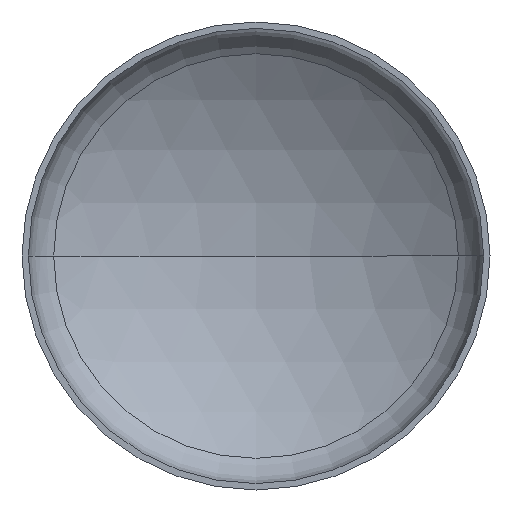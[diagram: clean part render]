
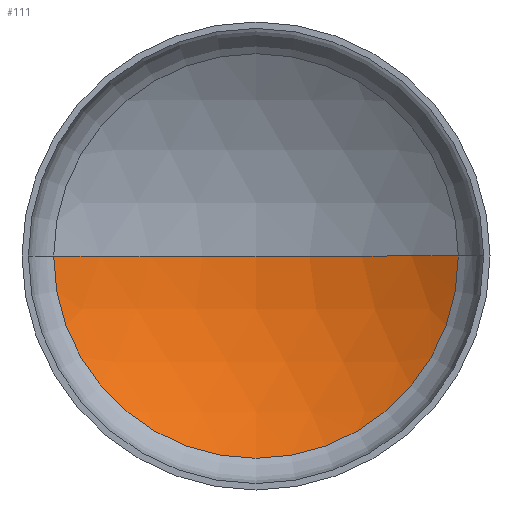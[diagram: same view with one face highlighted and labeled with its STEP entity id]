
A CAD part, front view. The second image highlights one B-rep face of the part: STEP entity #111.
In plain terms, the highlighted spherical face has radius 169.28 mm.
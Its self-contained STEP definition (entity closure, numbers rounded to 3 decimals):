
#2 = VERTEX_POINT ( 'NONE', #199 ) ;
#26 = DIRECTION ( 'NONE',  ( -1., 0., 0. ) ) ;
#41 = VERTEX_POINT ( 'NONE', #234 ) ;
#45 = DIRECTION ( 'NONE',  ( -1., 0., 0. ) ) ;
#61 = EDGE_CURVE ( 'NONE', #41, #260, #115, .T. ) ;
#88 = EDGE_CURVE ( 'NONE', #41, #2, #387, .T. ) ;
#92 = DIRECTION ( 'NONE',  ( 0., 0., 1. ) ) ;
#99 = DIRECTION ( 'NONE',  ( 0., 1., 0. ) ) ;
#103 = ORIENTED_EDGE ( 'NONE', *, *, #277, .F. ) ;
#111 = ADVANCED_FACE ( 'NONE', ( #386 ), #378, .F. ) ;
#112 = CARTESIAN_POINT ( 'NONE',  ( 0., 57.5, 0. ) ) ;
#115 = CIRCLE ( 'NONE', #396, 169.28 ) ;
#122 = CIRCLE ( 'NONE', #154, 169.28 ) ;
#154 = AXIS2_PLACEMENT_3D ( 'NONE', #186, #369, #26 ) ;
#160 = DIRECTION ( 'NONE',  ( 1., 0., 0. ) ) ;
#172 = AXIS2_PLACEMENT_3D ( 'NONE', #219, #236, #45 ) ;
#186 = CARTESIAN_POINT ( 'NONE',  ( 0., -111.78, 0. ) ) ;
#199 = CARTESIAN_POINT ( 'NONE',  ( -94.717, 28.521, 0. ) ) ;
#219 = CARTESIAN_POINT ( 'NONE',  ( 0., -111.78, 0. ) ) ;
#223 = ORIENTED_EDGE ( 'NONE', *, *, #88, .F. ) ;
#225 = DIRECTION ( 'NONE',  ( -1., 0., 0. ) ) ;
#226 = ORIENTED_EDGE ( 'NONE', *, *, #61, .T. ) ;
#234 = CARTESIAN_POINT ( 'NONE',  ( 94.717, 28.521, 0. ) ) ;
#236 = DIRECTION ( 'NONE',  ( 0., 0., 1. ) ) ;
#260 = VERTEX_POINT ( 'NONE', #112 ) ;
#277 = EDGE_CURVE ( 'NONE', #2, #260, #122, .T. ) ;
#289 = EDGE_LOOP ( 'NONE', ( #223, #226, #103 ) ) ;
#292 = CARTESIAN_POINT ( 'NONE',  ( 0., -111.78, 0. ) ) ;
#315 = AXIS2_PLACEMENT_3D ( 'NONE', #407, #99, #225 ) ;
#369 = DIRECTION ( 'NONE',  ( 0., 0., -1. ) ) ;
#378 = SPHERICAL_SURFACE ( 'NONE', #172, 169.28 ) ;
#386 = FACE_OUTER_BOUND ( 'NONE', #289, .T. ) ;
#387 = CIRCLE ( 'NONE', #315, 94.717 ) ;
#396 = AXIS2_PLACEMENT_3D ( 'NONE', #292, #92, #160 ) ;
#407 = CARTESIAN_POINT ( 'NONE',  ( 0., 28.521, 0. ) ) ;
